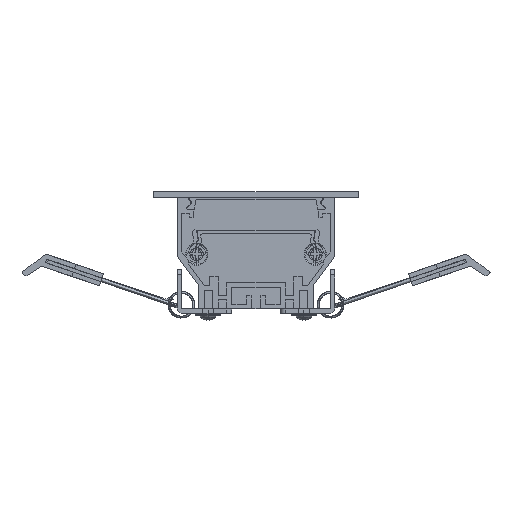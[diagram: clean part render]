
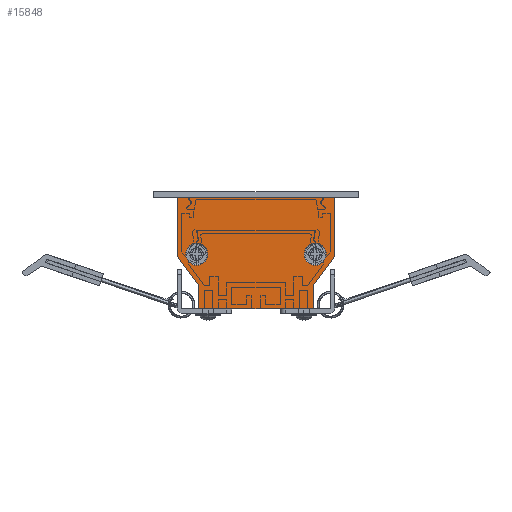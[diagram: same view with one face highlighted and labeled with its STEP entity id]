
A CAD part, front view. The second image highlights one B-rep face of the part: STEP entity #15848.
In plain terms, the highlighted planar face has unit normal (0, -1, 0) as drawn and (-1, 0, 0) by its records, which use the part's own axes.
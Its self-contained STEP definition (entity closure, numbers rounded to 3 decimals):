
#86=FACE_BOUND('',#2705,.T.);
#87=FACE_BOUND('',#2706,.T.);
#974=PLANE('',#17281);
#1800=FACE_OUTER_BOUND('',#2704,.T.);
#2704=EDGE_LOOP('',(#13928,#13929,#13930,#13931,#13932,#13933,#13934,#13935));
#2705=EDGE_LOOP('',(#13936,#13937));
#2706=EDGE_LOOP('',(#13938,#13939));
#3896=LINE('',#45335,#5326);
#3899=LINE('',#45341,#5329);
#3902=LINE('',#45347,#5332);
#3905=LINE('',#45353,#5335);
#3908=LINE('',#45359,#5338);
#3911=LINE('',#45365,#5341);
#3914=LINE('',#45371,#5344);
#3917=LINE('',#45375,#5347);
#5326=VECTOR('',#21020,304.8);
#5329=VECTOR('',#21025,304.8);
#5332=VECTOR('',#21030,304.8);
#5335=VECTOR('',#21035,304.8);
#5338=VECTOR('',#21040,304.8);
#5341=VECTOR('',#21045,304.8);
#5344=VECTOR('',#21050,304.8);
#5347=VECTOR('',#21055,304.8);
#6256=CIRCLE('',#17250,3.025);
#6257=CIRCLE('',#17252,3.025);
#6264=CIRCLE('',#17262,3.025);
#6265=CIRCLE('',#17264,3.025);
#7560=VERTEX_POINT('',#45281);
#7561=VERTEX_POINT('',#45283);
#7568=VERTEX_POINT('',#45305);
#7569=VERTEX_POINT('',#45307);
#7576=VERTEX_POINT('',#45332);
#7577=VERTEX_POINT('',#45334);
#7579=VERTEX_POINT('',#45340);
#7581=VERTEX_POINT('',#45346);
#7583=VERTEX_POINT('',#45352);
#7585=VERTEX_POINT('',#45358);
#7587=VERTEX_POINT('',#45364);
#7589=VERTEX_POINT('',#45370);
#9751=EDGE_CURVE('',#7561,#7560,#6256,.T.);
#9753=EDGE_CURVE('',#7560,#7561,#6257,.T.);
#9763=EDGE_CURVE('',#7569,#7568,#6264,.T.);
#9765=EDGE_CURVE('',#7568,#7569,#6265,.T.);
#9776=EDGE_CURVE('',#7577,#7576,#3896,.T.);
#9779=EDGE_CURVE('',#7579,#7577,#3899,.T.);
#9782=EDGE_CURVE('',#7581,#7579,#3902,.T.);
#9785=EDGE_CURVE('',#7583,#7581,#3905,.T.);
#9788=EDGE_CURVE('',#7585,#7583,#3908,.T.);
#9791=EDGE_CURVE('',#7587,#7585,#3911,.T.);
#9794=EDGE_CURVE('',#7589,#7587,#3914,.T.);
#9797=EDGE_CURVE('',#7576,#7589,#3917,.T.);
#13928=ORIENTED_EDGE('',*,*,#9797,.T.);
#13929=ORIENTED_EDGE('',*,*,#9794,.T.);
#13930=ORIENTED_EDGE('',*,*,#9791,.T.);
#13931=ORIENTED_EDGE('',*,*,#9788,.T.);
#13932=ORIENTED_EDGE('',*,*,#9785,.T.);
#13933=ORIENTED_EDGE('',*,*,#9782,.T.);
#13934=ORIENTED_EDGE('',*,*,#9779,.T.);
#13935=ORIENTED_EDGE('',*,*,#9776,.T.);
#13936=ORIENTED_EDGE('',*,*,#9765,.T.);
#13937=ORIENTED_EDGE('',*,*,#9763,.T.);
#13938=ORIENTED_EDGE('',*,*,#9753,.T.);
#13939=ORIENTED_EDGE('',*,*,#9751,.T.);
#15848=ADVANCED_FACE('',(#1800,#86,#87),#974,.T.);
#17250=AXIS2_PLACEMENT_3D('',#45284,#20961,#20962);
#17252=AXIS2_PLACEMENT_3D('',#45287,#20966,#20967);
#17262=AXIS2_PLACEMENT_3D('',#45308,#20989,#20990);
#17264=AXIS2_PLACEMENT_3D('',#45311,#20994,#20995);
#17281=AXIS2_PLACEMENT_3D('',#45376,#21056,#21057);
#20961=DIRECTION('center_axis',(1.,0.,0.));
#20962=DIRECTION('ref_axis',(0.,0.,1.));
#20966=DIRECTION('center_axis',(1.,0.,0.));
#20967=DIRECTION('ref_axis',(0.,0.,1.));
#20989=DIRECTION('center_axis',(1.,0.,0.));
#20990=DIRECTION('ref_axis',(0.,0.,1.));
#20994=DIRECTION('center_axis',(1.,0.,0.));
#20995=DIRECTION('ref_axis',(0.,0.,1.));
#21020=DIRECTION('',(0.,0.,1.));
#21025=DIRECTION('',(0.,-0.59,0.807));
#21030=DIRECTION('',(0.,0.,1.));
#21035=DIRECTION('',(0.,-1.,0.));
#21040=DIRECTION('',(0.,0.,-1.));
#21045=DIRECTION('',(0.,-0.59,-0.807));
#21050=DIRECTION('',(0.,0.,-1.));
#21055=DIRECTION('',(0.,1.,0.));
#21056=DIRECTION('center_axis',(-1.,0.,0.));
#21057=DIRECTION('ref_axis',(0.,1.,0.));
#45281=CARTESIAN_POINT('',(-564.203,-16.232,11.963));
#45283=CARTESIAN_POINT('',(-564.203,-16.232,18.012));
#45284=CARTESIAN_POINT('Origin',(-564.203,-16.232,14.987));
#45287=CARTESIAN_POINT('Origin',(-564.203,-16.232,14.987));
#45305=CARTESIAN_POINT('',(-564.203,16.232,11.963));
#45307=CARTESIAN_POINT('',(-564.203,16.232,18.012));
#45308=CARTESIAN_POINT('Origin',(-564.203,16.232,14.987));
#45311=CARTESIAN_POINT('Origin',(-564.203,16.232,14.987));
#45332=CARTESIAN_POINT('',(-564.203,-21.542,30.5));
#45334=CARTESIAN_POINT('',(-564.203,-21.542,14.342));
#45335=CARTESIAN_POINT('',(-564.203,-21.542,14.342));
#45340=CARTESIAN_POINT('',(-564.203,-15.659,6.3));
#45341=CARTESIAN_POINT('',(-564.203,-15.659,6.3));
#45346=CARTESIAN_POINT('',(-564.203,-15.659,0.));
#45347=CARTESIAN_POINT('',(-564.203,-15.659,0.));
#45352=CARTESIAN_POINT('',(-564.203,15.659,0.));
#45353=CARTESIAN_POINT('',(-564.203,15.659,0.));
#45358=CARTESIAN_POINT('',(-564.203,15.659,6.3));
#45359=CARTESIAN_POINT('',(-564.203,15.659,6.3));
#45364=CARTESIAN_POINT('',(-564.203,21.542,14.342));
#45365=CARTESIAN_POINT('',(-564.203,21.542,14.342));
#45370=CARTESIAN_POINT('',(-564.203,21.542,30.5));
#45371=CARTESIAN_POINT('',(-564.203,21.542,30.5));
#45375=CARTESIAN_POINT('',(-564.203,-21.542,30.5));
#45376=CARTESIAN_POINT('Origin',(-564.203,-21.542,30.5));
